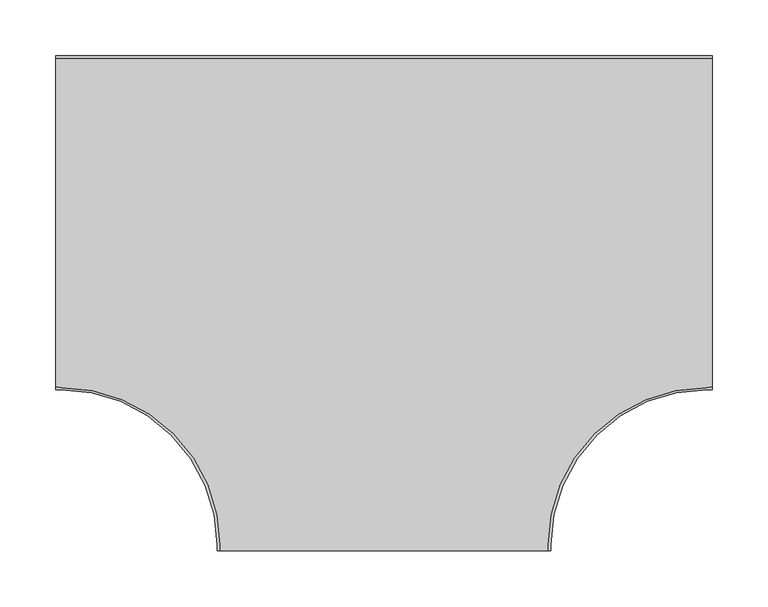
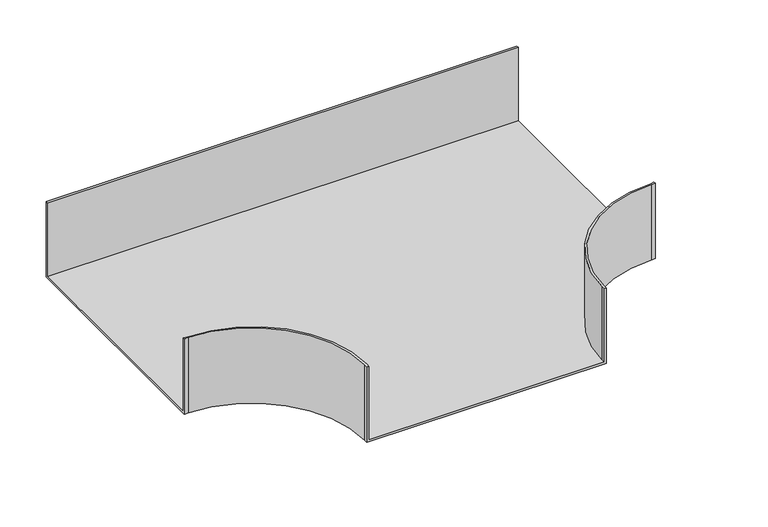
"""IFC4 building model written with IfcOpenShell, lengths in millimetres: cable carrier fitting geometry, BAKS_Horizontal tee radius : TKPP_H100."""

from ifc_helpers import new_model, si_unit, frame, origin, place, context, project, spatial, polyline, circle_curve, source, transform, mapped, element, save
from ifc_brep_helpers import plane_surface, cylinder_surface, revolved_surface, advanced_brep


def cable_carrier_fitting_21169ac5(model_context):
    return source(origin(), model_context, "Body", "AdvancedBrep", [
        advanced_brep(
        [(-150.0, -290.0, 50.0), (-150.0, -295.0, 50.0), (-147.46, -295.0, 50.0), (-147.46, -290.0, 50.0), (-290.0, -148.503822, 50.0), (-295.0, -147.46, 50.0), (-295.0, -150.0, 50.0), (-290.0, -150.0, 50.0), (150.0, -290.0, 50.0), (290.0, -150.0, 50.0), (295.0, -150.0, 50.0), (295.0, -147.46, 50.0), (290.0, -148.503822, 50.0), (147.46, -290.0, 50.0), (147.46, -295.0, 50.0), (150.0, -295.0, 50.0), (295.0, 150.0, 50.0), (-295.0, 150.0, 50.0), (-295.0, 147.46, 50.0), (295.0, 147.46, 50.0), (-150.0, -290.0, -50.0), (-290.0, -150.0, -50.0), (-295.0, -150.0, -50.0), (-295.0, 150.0, -50.0), (295.0, 150.0, -50.0), (295.0, -150.0, -50.0), (290.0, -150.0, -50.0), (150.0, -290.0, -50.0), (150.0, -295.0, -50.0), (-150.0, -295.0, -50.0), (-150.0, -290.0, -47.46), (147.46, -295.0, -47.46), (-147.46, -295.0, -47.46), (-147.46, -290.0, -47.46), (-290.0, -148.503822, -47.46), (-295.0, -147.46, -47.46), (-295.0, 147.46, -47.46), (-290.0, -150.0, -47.46), (150.0, -290.0, -47.46), (290.0, -150.0, -47.46), (295.0, 147.46, -47.46), (295.0, -147.46, -47.46), (290.0, -148.503822, -47.46), (147.46, -290.0, -47.46)],
        [
            (0, 1),
            (1, 2),
            (2, 3),
            (3, 4, circle_curve(frame((-288.96, -290.0, 50.0), z_axis=(0.0, 0.0, 1.0), x_axis=(1.0, 0.0, 0.0)), 141.5)),
            (4, 5),
            (5, 6),
            (6, 7),
            (7, 0, circle_curve(frame((-290.0, -290.0, 50.0), z_axis=(0.0, 0.0, -1.0), x_axis=(1.0, 0.0, 0.0)), 140.0)),
            (8, 9, circle_curve(frame((290.0, -290.0, 50.0), z_axis=(0.0, 0.0, -1.0), x_axis=(1.0, 0.0, 0.0)), 140.0)),
            (9, 10),
            (10, 11),
            (11, 12),
            (12, 13, circle_curve(frame((288.96, -290.0, 50.0), z_axis=(0.0, 0.0, 1.0), x_axis=(1.0, 0.0, 0.0)), 141.5)),
            (13, 14),
            (14, 15),
            (15, 8),
            (16, 17),
            (17, 18),
            (18, 19),
            (19, 16),
            (20, 21, circle_curve(frame((-290.0, -290.0, -50.0), z_axis=(0.0, 0.0, 1.0), x_axis=(1.0, 0.0, 0.0)), 140.0)),
            (21, 22),
            (22, 23),
            (23, 24),
            (24, 25),
            (25, 26),
            (26, 27, circle_curve(frame((290.0, -290.0, -50.0), z_axis=(0.0, 0.0, 1.0), x_axis=(1.0, 0.0, 0.0)), 140.0)),
            (27, 28),
            (28, 29),
            (29, 20),
            (29, 1),
            (0, 30),
            (30, 20),
            (28, 15),
            (14, 31),
            (31, 32),
            (32, 2),
            (32, 33),
            (33, 3),
            (33, 34, circle_curve(frame((-288.96, -290.0, -47.46), z_axis=(0.0, 0.0, 1.0), x_axis=(1.0, 0.0, 0.0)), 141.5)),
            (34, 4),
            (34, 35),
            (35, 5),
            (35, 36),
            (36, 18),
            (17, 23),
            (22, 6),
            (21, 37),
            (37, 7),
            (8, 38),
            (38, 27),
            (26, 39),
            (39, 9),
            (25, 10),
            (24, 16),
            (19, 40),
            (40, 41),
            (41, 11),
            (41, 42),
            (42, 12),
            (42, 43, circle_curve(frame((288.96, -290.0, -47.46), z_axis=(0.0, 0.0, 1.0), x_axis=(1.0, 0.0, 0.0)), 141.5)),
            (43, 13),
            (43, 31),
            (36, 40),
        ],
        [
            plane_surface(frame((-150.0, -290.0, 50.0), z_axis=(0.0, 0.0, 1.0), x_axis=(0.0, -1.0, 0.0))),
            plane_surface(frame((-150.0, -290.0, -50.0), z_axis=(0.0, 0.0, -1.0), x_axis=(0.0, 1.0, 0.0))),
            plane_surface(frame((-150.0, -290.0, 50.0), z_axis=(-1.0, 0.0, 0.0), x_axis=(0.0, 0.0, -1.0))),
            plane_surface(frame((-150.0, -295.0, 50.0), z_axis=(0.0, -1.0, 0.0), x_axis=(0.0, 0.0, -1.0))),
            plane_surface(frame((-147.46, -295.0, 50.0), z_axis=(1.0, 0.0, 0.0), x_axis=(0.0, 0.0, -1.0))),
            cylinder_surface(frame((-288.96, -290.0, -50.0), z_axis=(0.0, 0.0, 1.0), x_axis=(1.0, 0.0, 0.0)), 141.5),
            plane_surface(frame((-290.0, -148.503822, 50.0), z_axis=(0.2043586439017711, 0.9788960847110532, 0.0), x_axis=(0.0, 0.0, -1.0))),
            plane_surface(frame((-295.0, -147.46, 50.0), z_axis=(-1.0, 0.0, 0.0), x_axis=(0.0, 0.0, -1.0))),
            plane_surface(frame((-295.0, -150.0, 50.0), z_axis=(0.0, -1.0, 0.0), x_axis=(0.0, 0.0, -1.0))),
            revolved_surface(polyline([(-150.0, -290.0, -50.0), (-150.0, -290.0, 50.0)]), (-290.0, -290.0, -50.0), (0.0, 0.0, -1.0)),
            revolved_surface(polyline([(430.0, -290.0, -50.0), (430.0, -290.0, 50.0)]), (290.0, -290.0, 0.0), (0.0, 0.0, -1.0)),
            plane_surface(frame((290.0, -150.0, 50.0), z_axis=(0.0, -1.0, 0.0), x_axis=(0.0, 0.0, -1.0))),
            plane_surface(frame((295.0, -150.0, 50.0), z_axis=(1.0, 0.0, 0.0), x_axis=(0.0, 0.0, -1.0))),
            plane_surface(frame((295.0, -147.46, 50.0), z_axis=(-0.2043586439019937, 0.9788960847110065, 0.0), x_axis=(0.0, 0.0, -1.0))),
            cylinder_surface(frame((288.96, -290.0, 0.0), z_axis=(0.0, 0.0, 1.0), x_axis=(1.0, 0.0, 0.0)), 141.5),
            plane_surface(frame((147.46, -290.0, 50.0), z_axis=(-1.0, 0.0, 0.0), x_axis=(0.0, 0.0, -1.0))),
            plane_surface(frame((150.0, -295.0, 50.0), z_axis=(1.0, 0.0, 0.0), x_axis=(0.0, 0.0, -1.0))),
            plane_surface(frame((295.0, 150.0, 50.0), z_axis=(0.0, 1.0, 0.0), x_axis=(0.0, 0.0, -1.0))),
            plane_surface(frame((-295.0, 147.46, 50.0), z_axis=(0.0, -1.0, 0.0), x_axis=(0.0, 0.0, -1.0))),
            plane_surface(frame((-150.0, -290.0, -47.46), z_axis=(0.0, 0.0, 1.0), x_axis=(1.0253398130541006e-12, -1.0, 0.0))),
        ],
        [
            (0, [[1, 2, 3, 4, 5, 6, 7, 8]]),
            (0, [[9, 10, 11, 12, 13, 14, 15, 16]]),
            (0, [[17, 18, 19, 20]]),
            (1, [[21, 22, 23, 24, 25, 26, 27, 28, 29, 30]]),
            (2, [[31, -1, 32, 33, -30]]),
            (3, [[-2, -31, -29, 34, -15, 35, 36, 37]]),
            (4, [[-3, -37, 38, 39]]),
            (5, [[-4, -39, 40, 41]]),
            (6, [[-5, -41, 42, 43]]),
            (7, [[-6, -43, 44, 45, -18, 46, -23, 47]]),
            (8, [[-7, -47, -22, 48, 49]]),
            (9, [[-8, -49, -48, -21, -33, -32]]),
            (10, [[-9, 50, 51, -27, 52, 53]]),
            (11, [[54, -10, -53, -52, -26]]),
            (12, [[-11, -54, -25, 55, -20, 56, 57, 58]]),
            (13, [[-12, -58, 59, 60]]),
            (14, [[-13, -60, 61, 62]]),
            (15, [[-14, -62, 63, -35]]),
            (16, [[-16, -34, -28, -51, -50]]),
            (17, [[-46, -17, -55, -24]]),
            (18, [[-19, -45, 64, -56]]),
            (19, [[-36, -63, -61, -59, -57, -64, -44, -42, -40, -38]]),
        ],
    ),
    ])


if __name__ == "__main__":
    model = new_model("IFC4")
    model_context = context("Model", 3, world=origin())
    ifc_project = project(units=[si_unit("LENGTHUNIT", "METRE", prefix="MILLI")], contexts=[model_context])
    site = spatial("IfcSite", under=ifc_project)
    building = spatial("IfcBuilding", under=site)
    placement = place(None, origin())
    cable_carrier_fitting_shape = cable_carrier_fitting_21169ac5(model_context)
    element("IfcCableCarrierFitting", 1, ObjectType="BAKS_Horizontal tee radius : TKPP_H100", at=placement, inside=building, context=model_context, shape_type="MappedRepresentation", body=[
        mapped(cable_carrier_fitting_shape, transform((0.0, 0.0, 0.0), x_axis=(1.0, 0.0, 0.0), y_axis=(0.0, 1.0, 0.0), z_axis=(0.0, 0.0, 1.0))),
    ])
    save(model, "model.ifc")
